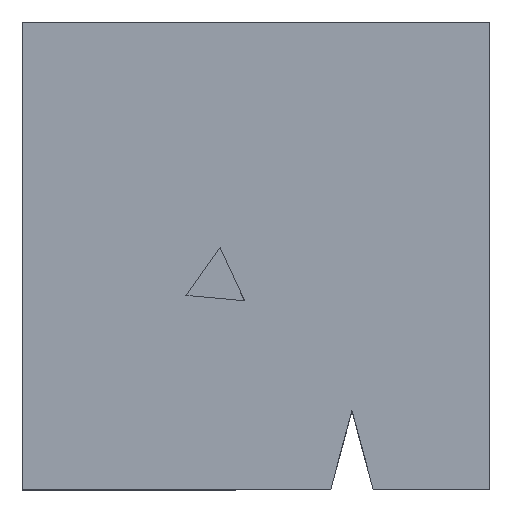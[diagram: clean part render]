
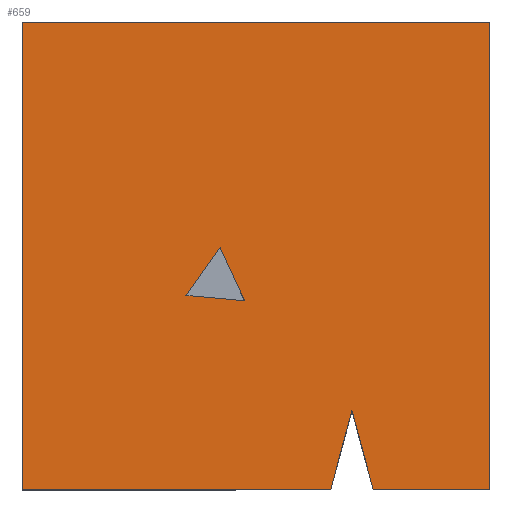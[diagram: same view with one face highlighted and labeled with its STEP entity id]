
A CAD part, top view. The second image highlights one B-rep face of the part: STEP entity #659.
In plain terms, the highlighted planar face has unit normal (0, 0, 1).
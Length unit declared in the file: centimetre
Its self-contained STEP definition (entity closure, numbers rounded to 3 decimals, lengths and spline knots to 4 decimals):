
#20 = CARTESIAN_POINT ( 'NONE',  ( 422.9687, 517.9859, 1000. ) ) ;
#82 = LINE ( 'NONE', #695, #915 ) ;
#87 = CARTESIAN_POINT ( 'NONE',  ( 0., 0., 1000. ) ) ;
#94 = VERTEX_POINT ( 'NONE', #253 ) ;
#100 = VERTEX_POINT ( 'NONE', #1119 ) ;
#114 = VERTEX_POINT ( 'NONE', #142 ) ;
#142 = CARTESIAN_POINT ( 'NONE',  ( 1000., 1000., 1000. ) ) ;
#148 = CARTESIAN_POINT ( 'NONE',  ( 0., 1000., 1000. ) ) ;
#157 = CARTESIAN_POINT ( 'NONE',  ( 0., 1000., 1000. ) ) ;
#159 = CARTESIAN_POINT ( 'NONE',  ( 350.0702, 414.8882, 1000. ) ) ;
#182 = LINE ( 'NONE', #474, #394 ) ;
#192 = CARTESIAN_POINT ( 'NONE',  ( 1000., 1000., 1000. ) ) ;
#197 = FACE_BOUND ( 'NONE', #580, .T. ) ;
#232 = EDGE_CURVE ( 'NONE', #336, #822, #379, .T. ) ;
#234 = VECTOR ( 'NONE', #762, 100. ) ;
#239 = EDGE_CURVE ( 'NONE', #100, #1202, #82, .T. ) ;
#253 = CARTESIAN_POINT ( 'NONE',  ( 660.0088, 0., 1000. ) ) ;
#260 = LINE ( 'NONE', #148, #810 ) ;
#263 = CARTESIAN_POINT ( 'NONE',  ( 0., 0., 1000. ) ) ;
#276 = DIRECTION ( 'NONE',  ( -1., 0., 0. ) ) ;
#287 = DIRECTION ( 'NONE',  ( 1., 0., 0. ) ) ;
#305 = EDGE_CURVE ( 'NONE', #579, #100, #1114, .T. ) ;
#306 = DIRECTION ( 'NONE',  ( 0., -1., 0. ) ) ;
#315 = ORIENTED_EDGE ( 'NONE', *, *, #239, .F. ) ;
#336 = VERTEX_POINT ( 'NONE', #891 ) ;
#337 = VECTOR ( 'NONE', #306, 100. ) ;
#379 = LINE ( 'NONE', #588, #591 ) ;
#381 = DIRECTION ( 'NONE',  ( 0., 0., 1. ) ) ;
#394 = VECTOR ( 'NONE', #866, 100. ) ;
#405 = DIRECTION ( 'NONE',  ( 0.996, -0.092, 0. ) ) ;
#421 = LINE ( 'NONE', #20, #988 ) ;
#425 = ORIENTED_EDGE ( 'NONE', *, *, #669, .F. ) ;
#463 = EDGE_CURVE ( 'NONE', #114, #834, #260, .T. ) ;
#466 = FACE_OUTER_BOUND ( 'NONE', #507, .T. ) ;
#474 = CARTESIAN_POINT ( 'NONE',  ( 660.0088, 0., 1000. ) ) ;
#504 = ORIENTED_EDGE ( 'NONE', *, *, #232, .T. ) ;
#507 = EDGE_LOOP ( 'NONE', ( #425, #898, #504, #1259, #804, #917, #987 ) ) ;
#512 = VECTOR ( 'NONE', #581, 100. ) ;
#535 = VERTEX_POINT ( 'NONE', #1033 ) ;
#565 = CARTESIAN_POINT ( 'NONE',  ( 0., 0., 1000. ) ) ;
#579 = VERTEX_POINT ( 'NONE', #159 ) ;
#580 = EDGE_LOOP ( 'NONE', ( #1014, #905, #315 ) ) ;
#581 = DIRECTION ( 'NONE',  ( 0., 1., 0. ) ) ;
#588 = CARTESIAN_POINT ( 'NONE',  ( 0., 0., 1000. ) ) ;
#591 = VECTOR ( 'NONE', #879, 100. ) ;
#607 = EDGE_CURVE ( 'NONE', #938, #94, #856, .T. ) ;
#615 = CARTESIAN_POINT ( 'NONE',  ( 1000., 0., 1000. ) ) ;
#646 = LINE ( 'NONE', #1036, #1125 ) ;
#659 = ADVANCED_FACE ( 'NONE', ( #466, #197 ), #862, .T. ) ;
#669 = EDGE_CURVE ( 'NONE', #535, #94, #182, .T. ) ;
#685 = EDGE_CURVE ( 'NONE', #822, #114, #1267, .T. ) ;
#695 = CARTESIAN_POINT ( 'NONE',  ( 475.8047, 403.3051, 1000. ) ) ;
#717 = CARTESIAN_POINT ( 'NONE',  ( 422.9687, 517.9859, 1000. ) ) ;
#740 = AXIS2_PLACEMENT_3D ( 'NONE', #87, #381, #287 ) ;
#762 = DIRECTION ( 'NONE',  ( 1., 0., 0. ) ) ;
#770 = DIRECTION ( 'NONE',  ( -0.418, 0.908, 0. ) ) ;
#804 = ORIENTED_EDGE ( 'NONE', *, *, #463, .T. ) ;
#810 = VECTOR ( 'NONE', #276, 100. ) ;
#822 = VERTEX_POINT ( 'NONE', #615 ) ;
#834 = VERTEX_POINT ( 'NONE', #157 ) ;
#856 = LINE ( 'NONE', #565, #234 ) ;
#862 = PLANE ( 'NONE',  #740 ) ;
#866 = DIRECTION ( 'NONE',  ( -0.26, -0.966, 0. ) ) ;
#879 = DIRECTION ( 'NONE',  ( 1., 0., 0. ) ) ;
#887 = CARTESIAN_POINT ( 'NONE',  ( 0., 1000., 1000. ) ) ;
#891 = CARTESIAN_POINT ( 'NONE',  ( 750.7676, 0., 1000. ) ) ;
#898 = ORIENTED_EDGE ( 'NONE', *, *, #945, .F. ) ;
#901 = LINE ( 'NONE', #887, #337 ) ;
#905 = ORIENTED_EDGE ( 'NONE', *, *, #1169, .F. ) ;
#915 = VECTOR ( 'NONE', #770, 100. ) ;
#917 = ORIENTED_EDGE ( 'NONE', *, *, #1116, .T. ) ;
#938 = VERTEX_POINT ( 'NONE', #263 ) ;
#945 = EDGE_CURVE ( 'NONE', #336, #535, #646, .T. ) ;
#987 = ORIENTED_EDGE ( 'NONE', *, *, #607, .T. ) ;
#988 = VECTOR ( 'NONE', #992, 100. ) ;
#992 = DIRECTION ( 'NONE',  ( -0.577, -0.817, 0. ) ) ;
#998 = VECTOR ( 'NONE', #405, 100. ) ;
#1014 = ORIENTED_EDGE ( 'NONE', *, *, #305, .F. ) ;
#1033 = CARTESIAN_POINT ( 'NONE',  ( 705.3882, 168.515, 1000. ) ) ;
#1036 = CARTESIAN_POINT ( 'NONE',  ( 705.3882, 168.515, 1000. ) ) ;
#1109 = CARTESIAN_POINT ( 'NONE',  ( 350.0702, 414.8882, 1000. ) ) ;
#1111 = DIRECTION ( 'NONE',  ( -0.26, 0.966, 0. ) ) ;
#1114 = LINE ( 'NONE', #1109, #998 ) ;
#1116 = EDGE_CURVE ( 'NONE', #834, #938, #901, .T. ) ;
#1119 = CARTESIAN_POINT ( 'NONE',  ( 475.8047, 403.3051, 1000. ) ) ;
#1125 = VECTOR ( 'NONE', #1111, 100. ) ;
#1169 = EDGE_CURVE ( 'NONE', #1202, #579, #421, .T. ) ;
#1202 = VERTEX_POINT ( 'NONE', #717 ) ;
#1259 = ORIENTED_EDGE ( 'NONE', *, *, #685, .T. ) ;
#1267 = LINE ( 'NONE', #192, #512 ) ;
